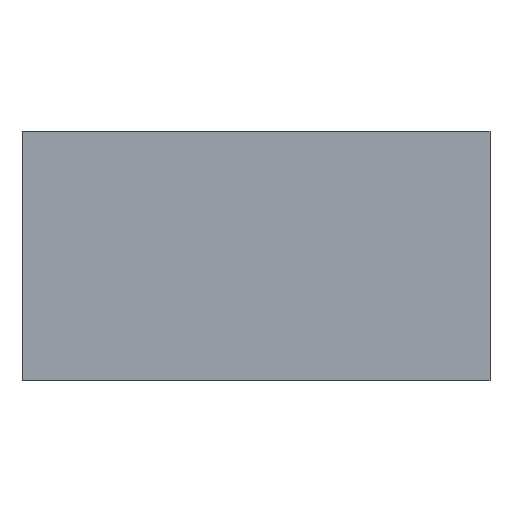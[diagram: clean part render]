
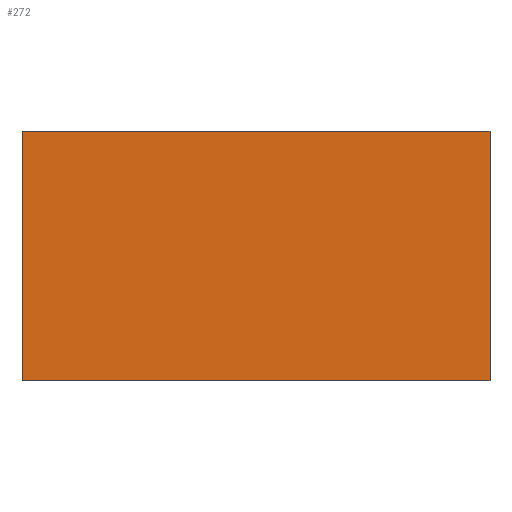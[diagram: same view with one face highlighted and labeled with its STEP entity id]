
A CAD part, left-side view. The second image highlights one B-rep face of the part: STEP entity #272.
In plain terms, the highlighted planar face has unit normal (-1, 0, 0).
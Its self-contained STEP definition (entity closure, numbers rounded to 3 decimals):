
#41=ORIENTED_EDGE('',*,*,#80,.F.);
#42=ORIENTED_EDGE('',*,*,#79,.F.);
#43=ORIENTED_EDGE('',*,*,#81,.T.);
#44=ORIENTED_EDGE('',*,*,#82,.T.);
#79=EDGE_CURVE('',#98,#97,#115,.T.);
#80=EDGE_CURVE('',#97,#99,#116,.T.);
#81=EDGE_CURVE('',#98,#100,#117,.T.);
#82=EDGE_CURVE('',#100,#99,#118,.T.);
#97=VERTEX_POINT('',#373);
#98=VERTEX_POINT('',#375);
#99=VERTEX_POINT('',#379);
#100=VERTEX_POINT('',#381);
#115=LINE('',#376,#127);
#116=LINE('',#378,#128);
#117=LINE('',#380,#129);
#118=LINE('',#382,#130);
#127=VECTOR('',#319,1000.);
#128=VECTOR('',#322,1000.);
#129=VECTOR('',#323,1000.);
#130=VECTOR('',#324,1000.);
#135=EDGE_LOOP('',(#41,#42,#43,#44));
#157=FACE_BOUND('',#135,.T.);
#179=PLANE('',#289);
#272=ADVANCED_FACE('',(#157),#179,.T.);
#289=AXIS2_PLACEMENT_3D('',#377,#320,#321);
#319=DIRECTION('',(0.,0.,-1.));
#320=DIRECTION('',(-1.,0.,0.));
#321=DIRECTION('',(0.,0.,1.));
#322=DIRECTION('',(0.,1.,0.));
#323=DIRECTION('',(0.,1.,0.));
#324=DIRECTION('',(0.,0.,-1.));
#373=CARTESIAN_POINT('',(-33.5,-7.5,0.));
#375=CARTESIAN_POINT('',(-33.5,-7.5,8.));
#376=CARTESIAN_POINT('',(-33.5,-7.5,8.));
#377=CARTESIAN_POINT('',(-33.5,-7.5,8.));
#378=CARTESIAN_POINT('',(-33.5,-7.5,0.));
#379=CARTESIAN_POINT('',(-33.5,7.5,0.));
#380=CARTESIAN_POINT('',(-33.5,-7.5,8.));
#381=CARTESIAN_POINT('',(-33.5,7.5,8.));
#382=CARTESIAN_POINT('',(-33.5,7.5,8.));
